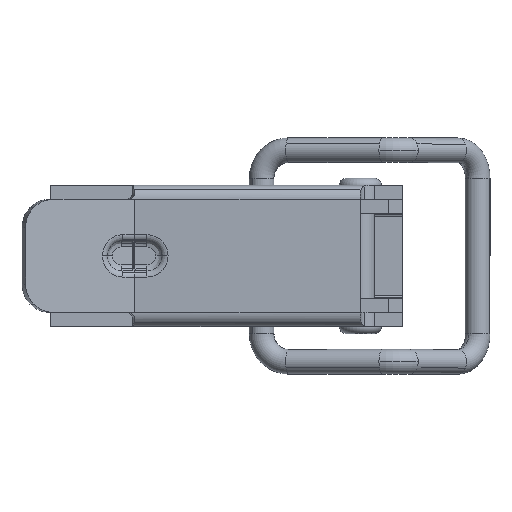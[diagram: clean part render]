
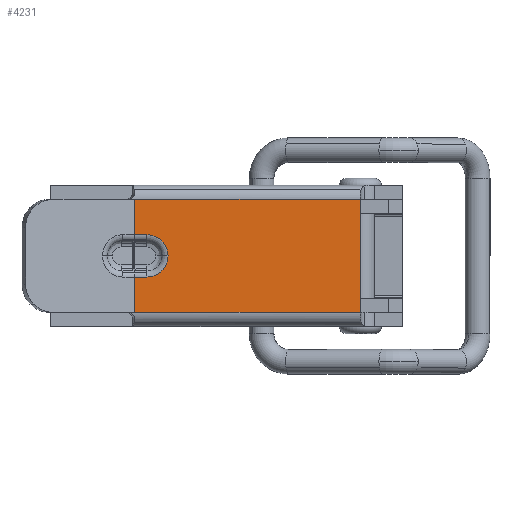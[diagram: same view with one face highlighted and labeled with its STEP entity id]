
A CAD part, top view. The second image highlights one B-rep face of the part: STEP entity #4231.
In plain terms, the highlighted planar face has unit normal (0, 0, 1).
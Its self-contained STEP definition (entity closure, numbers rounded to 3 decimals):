
#1441=CARTESIAN_POINT('',(11.993,-4.,-0.535));
#1442=VERTEX_POINT('',#1441);
#2471=CARTESIAN_POINT('',(-1.639,0.,-0.535));
#2472=VERTEX_POINT('',#2471);
#2482=CARTESIAN_POINT('',(-3.139,1.5,-0.535));
#2483=VERTEX_POINT('',#2482);
#2484=CARTESIAN_POINT('',(-3.139,0.0,-0.535));
#2485=DIRECTION('',(0.0,0.0,1.0));
#2486=DIRECTION('',(1.0,0.0,0.0));
#2487=AXIS2_PLACEMENT_3D('',#2484,#2485,#2486);
#2488=CIRCLE('',#2487,1.5);
#2489=EDGE_CURVE('',#2472,#2483,#2488,.T.);
#3450=CARTESIAN_POINT('',(-4.007,-4.0,-0.535));
#3451=VERTEX_POINT('',#3450);
#3458=CARTESIAN_POINT('',(-4.007,-1.5,-0.535));
#3459=VERTEX_POINT('',#3458);
#3460=CARTESIAN_POINT('',(-4.007,-4.0,-0.535));
#3461=DIRECTION('',(0.0,1.0,0.0));
#3462=VECTOR('',#3461,2.5);
#3463=LINE('',#3460,#3462);
#3464=EDGE_CURVE('',#3451,#3459,#3463,.T.);
#3482=CARTESIAN_POINT('',(-4.007,1.5,-0.535));
#3483=VERTEX_POINT('',#3482);
#3490=CARTESIAN_POINT('',(-4.007,4.0,-0.535));
#3491=VERTEX_POINT('',#3490);
#3492=CARTESIAN_POINT('',(-4.007,1.5,-0.535));
#3493=DIRECTION('',(0.0,1.0,0.0));
#3494=VECTOR('',#3493,2.5);
#3495=LINE('',#3492,#3494);
#3496=EDGE_CURVE('',#3483,#3491,#3495,.T.);
#4126=CARTESIAN_POINT('',(-3.139,-1.5,-0.535));
#4127=VERTEX_POINT('',#4126);
#4128=CARTESIAN_POINT('',(-4.007,-1.5,-0.535));
#4129=DIRECTION('',(1.0,0.0,0.0));
#4130=VECTOR('',#4129,0.868);
#4131=LINE('',#4128,#4130);
#4132=EDGE_CURVE('',#3459,#4127,#4131,.T.);
#4171=CARTESIAN_POINT('',(-3.139,0.0,-0.535));
#4172=DIRECTION('',(0.0,0.0,1.0));
#4173=DIRECTION('',(1.0,0.0,0.0));
#4174=AXIS2_PLACEMENT_3D('',#4171,#4172,#4173);
#4175=CIRCLE('',#4174,1.5);
#4176=EDGE_CURVE('',#4127,#2472,#4175,.T.);
#4188=CARTESIAN_POINT('',(-3.139,1.5,-0.535));
#4189=DIRECTION('',(-1.0,0.0,0.0));
#4190=VECTOR('',#4189,0.868);
#4191=LINE('',#4188,#4190);
#4192=EDGE_CURVE('',#2483,#3483,#4191,.T.);
#4198=CARTESIAN_POINT('',(11.993,-4.0,-0.535));
#4199=DIRECTION('',(0.0,0.0,1.0));
#4200=DIRECTION('',(1.0,0.0,0.0));
#4201=AXIS2_PLACEMENT_3D('',#4198,#4199,#4200);
#4202=PLANE('',#4201);
#4203=ORIENTED_EDGE('',*,*,#4192,.F.);
#4204=ORIENTED_EDGE('',*,*,#2489,.F.);
#4205=ORIENTED_EDGE('',*,*,#4176,.F.);
#4206=ORIENTED_EDGE('',*,*,#4132,.F.);
#4207=ORIENTED_EDGE('',*,*,#3464,.F.);
#4208=CARTESIAN_POINT('',(11.993,-4.,-0.535));
#4209=DIRECTION('',(-1.0,0.0,0.0));
#4210=VECTOR('',#4209,16.0);
#4211=LINE('',#4208,#4210);
#4212=EDGE_CURVE('',#1442,#3451,#4211,.T.);
#4213=ORIENTED_EDGE('',*,*,#4212,.F.);
#4214=CARTESIAN_POINT('',(11.993,4.,-0.535));
#4215=VERTEX_POINT('',#4214);
#4216=CARTESIAN_POINT('',(11.993,4.,-0.535));
#4217=DIRECTION('',(0.0,-1.0,0.0));
#4218=VECTOR('',#4217,8.);
#4219=LINE('',#4216,#4218);
#4220=EDGE_CURVE('',#4215,#1442,#4219,.T.);
#4221=ORIENTED_EDGE('',*,*,#4220,.F.);
#4222=CARTESIAN_POINT('',(-4.007,4.0,-0.535));
#4223=DIRECTION('',(1.0,0.0,0.0));
#4224=VECTOR('',#4223,16.0);
#4225=LINE('',#4222,#4224);
#4226=EDGE_CURVE('',#3491,#4215,#4225,.T.);
#4227=ORIENTED_EDGE('',*,*,#4226,.F.);
#4228=ORIENTED_EDGE('',*,*,#3496,.F.);
#4229=EDGE_LOOP('',(#4203,#4204,#4205,#4206,#4207,#4213,#4221,#4227,#4228));
#4230=FACE_OUTER_BOUND('',#4229,.T.);
#4231=ADVANCED_FACE('',(#4230),#4202,.T.);
